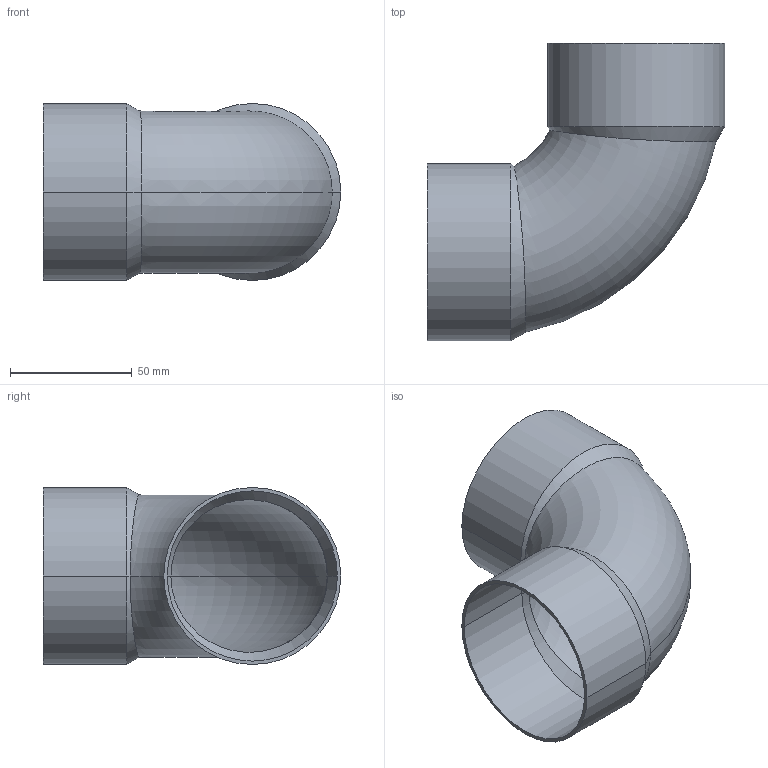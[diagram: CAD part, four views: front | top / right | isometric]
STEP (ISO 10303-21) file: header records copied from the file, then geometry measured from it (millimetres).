
FILE_DESCRIPTION((''),'2;1');
FILE_NAME('G:\SANHA-TERNAT\Technik\Deckel\UUU\Producttek\1509052\1509070(0).stp','2007-07-16T11:38:47',('vdvijverd'),(''),'Autodesk Inventor 8','Autodesk Inventor 8','');
FILE_SCHEMA(('AUTOMOTIVE_DESIGN { 1 0 10303 214 1 1 1 1 }'));
Length unit declared in the file: millimetre
Products named in the file (1): 1509070(0)
Bounding box: 122.4 x 122.4 x 72.8 mm (x, y, z)
Volume: 52861 mm3; surface area: 63636.7 mm2
Topology: 1 solids, 1 shells, 24 faces, 56 edges, 34 vertices
Faces by surface type: bspline 10, torus 4, cylinder 4, cone 4, plane 2
Entity records: 1003 total; most frequent: CARTESIAN_POINT 477, ORIENTED_EDGE 112, DIRECTION 94, EDGE_CURVE 56, AXIS2_PLACEMENT_3D 39, VERTEX_POINT 34, EDGE_LOOP 26, CIRCLE 24
